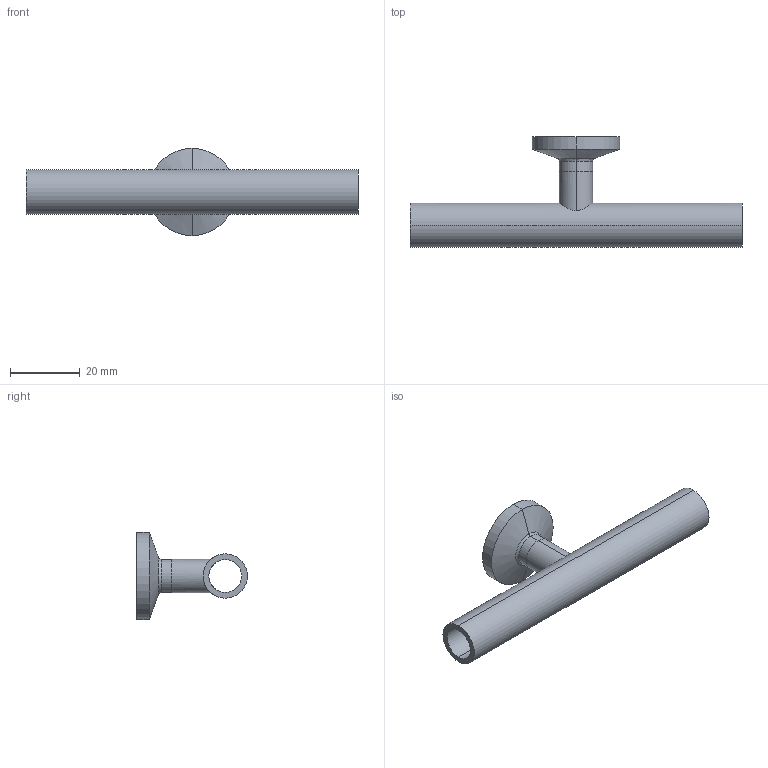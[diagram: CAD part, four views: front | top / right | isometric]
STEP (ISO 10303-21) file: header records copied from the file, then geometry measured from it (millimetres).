
FILE_DESCRIPTION (( 'STEP AP214' ), '1' );
FILE_NAME ('TE7RWWCS6L.5x.375-...STEP', '2016-05-23T10:41:30', ( 'eran' ), ( '' ), 'SwSTEP 2.0', 'SolidWorks 2016', '' );
FILE_SCHEMA (( 'AUTOMOTIVE_DESIGN' ));
Length unit declared in the file: millimetre
Products named in the file (1): TE7RWWCS6L.5x.375-..
Bounding box: 95.2 x 31.75 x 24.99 mm (x, y, z)
Volume: 7488.3 mm3; surface area: 8872 mm2
Topology: 2 solids, 2 shells, 34 faces, 70 edges, 42 vertices
Faces by surface type: cylinder 16, bspline 8, plane 6, cone 4
Entity records: 1191 total; most frequent: CARTESIAN_POINT 431, DIRECTION 158, ORIENTED_EDGE 140, EDGE_CURVE 70, AXIS2_PLACEMENT_3D 69, CIRCLE 42, EDGE_LOOP 42, VERTEX_POINT 42
